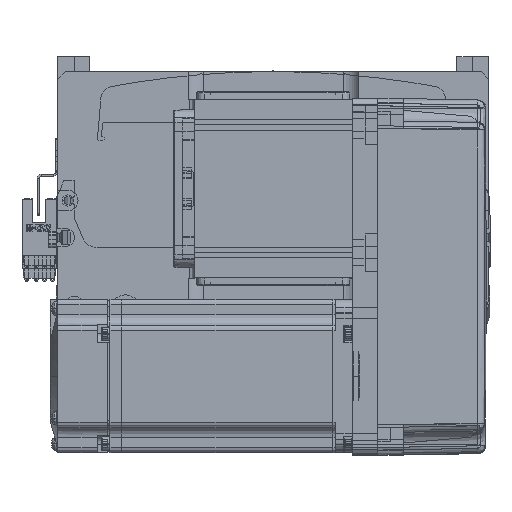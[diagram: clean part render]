
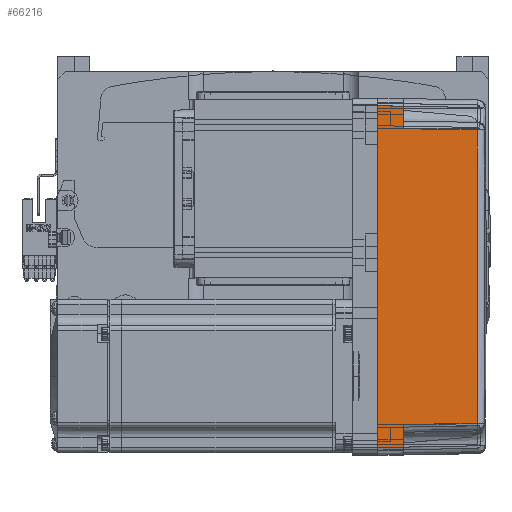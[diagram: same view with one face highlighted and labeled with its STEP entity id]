
A CAD part, top view. The second image highlights one B-rep face of the part: STEP entity #66216.
In plain terms, the highlighted planar face has unit normal (0.018, 0, 1) as drawn and (0, 1, 0.017) by its records, which use the part's own axes.
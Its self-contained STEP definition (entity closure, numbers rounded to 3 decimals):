
#2571 = CARTESIAN_POINT ( 'NONE',  ( -58., 35.825, 10. ) ) ;
#3292 = CARTESIAN_POINT ( 'NONE',  ( -67., 36., 0. ) ) ;
#3382 = DIRECTION ( 'NONE',  ( 1., 0., 0. ) ) ;
#4315 = PLANE ( 'NONE',  #12093 ) ;
#4457 = CARTESIAN_POINT ( 'NONE',  ( 70., 35.825, 10. ) ) ;
#4559 = DIRECTION ( 'NONE',  ( 0., -0.017, 1. ) ) ;
#5425 = ORIENTED_EDGE ( 'NONE', *, *, #33281, .F. ) ;
#7212 = VERTEX_POINT ( 'NONE', #16148 ) ;
#8849 = DIRECTION ( 'NONE',  ( 0.017, -0.017, 1. ) ) ;
#10027 = DIRECTION ( 'NONE',  ( 0.017, -0.017, 1. ) ) ;
#12093 = AXIS2_PLACEMENT_3D ( 'NONE', #64727, #54048, #4559 ) ;
#12339 = ORIENTED_EDGE ( 'NONE', *, *, #48164, .T. ) ;
#15140 = DIRECTION ( 'NONE',  ( 0.017, 0.017, -1. ) ) ;
#15899 = ORIENTED_EDGE ( 'NONE', *, *, #61700, .T. ) ;
#16148 = CARTESIAN_POINT ( 'NONE',  ( 66.826, 35.825, 10. ) ) ;
#16507 = CARTESIAN_POINT ( 'NONE',  ( -58., 35.825, 10. ) ) ;
#17235 = CARTESIAN_POINT ( 'NONE',  ( 67.001, 36.001, -0.052 ) ) ;
#19145 = VERTEX_POINT ( 'NONE', #54672 ) ;
#20701 = CARTESIAN_POINT ( 'NONE',  ( 57.495, 35.32, 38.985 ) ) ;
#23133 = CARTESIAN_POINT ( 'NONE',  ( -66.826, 35.825, 10. ) ) ;
#23268 = VECTOR ( 'NONE', #10027, 1000. ) ;
#23359 = CARTESIAN_POINT ( 'NONE',  ( -67., 36., 0. ) ) ;
#23490 = ORIENTED_EDGE ( 'NONE', *, *, #59298, .T. ) ;
#24403 = FACE_OUTER_BOUND ( 'NONE', #69454, .T. ) ;
#25629 = ORIENTED_EDGE ( 'NONE', *, *, #44479, .T. ) ;
#27716 = LINE ( 'NONE', #4457, #37178 ) ;
#28560 = CARTESIAN_POINT ( 'NONE',  ( -57.495, 35.32, 38.985 ) ) ;
#28997 = CARTESIAN_POINT ( 'NONE',  ( -57.495, 35.32, 38.985 ) ) ;
#29271 = CARTESIAN_POINT ( 'NONE',  ( 57.495, 35.32, 38.985 ) ) ;
#31049 = VECTOR ( 'NONE', #15140, 1000. ) ;
#32657 = LINE ( 'NONE', #3292, #50857 ) ;
#33281 = EDGE_CURVE ( 'NONE', #52095, #53939, #57572, .T. ) ;
#33346 = ORIENTED_EDGE ( 'NONE', *, *, #50012, .T. ) ;
#36073 = VERTEX_POINT ( 'NONE', #2571 ) ;
#36179 = LINE ( 'NONE', #20701, #31049 ) ;
#36884 = VERTEX_POINT ( 'NONE', #28997 ) ;
#37178 = VECTOR ( 'NONE', #42340, 1000. ) ;
#37987 = VECTOR ( 'NONE', #55901, 1000. ) ;
#38479 = VERTEX_POINT ( 'NONE', #23133 ) ;
#39244 = LINE ( 'NONE', #59158, #56550 ) ;
#40443 = B_SPLINE_CURVE_WITH_KNOTS ( 'NONE', 3,
 ( #28560, #44991, #45728, #29271 ),
 .UNSPECIFIED., .F., .F.,
 ( 4, 4 ),
 ( 0., 1. ),
 .UNSPECIFIED. ) ;
#42340 = DIRECTION ( 'NONE',  ( 1., 0., 0. ) ) ;
#44340 = CARTESIAN_POINT ( 'NONE',  ( 67., 36., 0. ) ) ;
#44479 = EDGE_CURVE ( 'NONE', #19145, #56102, #36179, .T. ) ;
#44615 = VECTOR ( 'NONE', #70906, 1000. ) ;
#44991 = CARTESIAN_POINT ( 'NONE',  ( -19.165, 35.316, 39.181 ) ) ;
#45728 = CARTESIAN_POINT ( 'NONE',  ( 19.165, 35.316, 39.181 ) ) ;
#48164 = EDGE_CURVE ( 'NONE', #52095, #38479, #32657, .T. ) ;
#50012 = EDGE_CURVE ( 'NONE', #38479, #36073, #39244, .T. ) ;
#50857 = VECTOR ( 'NONE', #8849, 1000. ) ;
#52095 = VERTEX_POINT ( 'NONE', #23359 ) ;
#52307 = CARTESIAN_POINT ( 'NONE',  ( 58., 35.825, 10. ) ) ;
#53939 = VERTEX_POINT ( 'NONE', #44340 ) ;
#53951 = ORIENTED_EDGE ( 'NONE', *, *, #67341, .T. ) ;
#54048 = DIRECTION ( 'NONE',  ( 0., 1., 0.017 ) ) ;
#54149 = CARTESIAN_POINT ( 'NONE',  ( 0., 36., 0. ) ) ;
#54672 = CARTESIAN_POINT ( 'NONE',  ( 57.495, 35.32, 38.985 ) ) ;
#55901 = DIRECTION ( 'NONE',  ( -0.017, -0.017, 1. ) ) ;
#56102 = VERTEX_POINT ( 'NONE', #52307 ) ;
#56498 = EDGE_CURVE ( 'NONE', #53939, #7212, #68391, .T. ) ;
#56550 = VECTOR ( 'NONE', #3382, 1000. ) ;
#56584 = ORIENTED_EDGE ( 'NONE', *, *, #56498, .F. ) ;
#57572 = LINE ( 'NONE', #54149, #44615 ) ;
#59158 = CARTESIAN_POINT ( 'NONE',  ( 70., 35.825, 10. ) ) ;
#59298 = EDGE_CURVE ( 'NONE', #36884, #19145, #40443, .T. ) ;
#61700 = EDGE_CURVE ( 'NONE', #36073, #36884, #69153, .T. ) ;
#64727 = CARTESIAN_POINT ( 'NONE',  ( 70., 36., 0. ) ) ;
#66216 = ADVANCED_FACE ( 'NONE', ( #24403 ), #4315, .T. ) ;
#67341 = EDGE_CURVE ( 'NONE', #56102, #7212, #27716, .T. ) ;
#68391 = LINE ( 'NONE', #17235, #37987 ) ;
#69153 = LINE ( 'NONE', #16507, #23268 ) ;
#69454 = EDGE_LOOP ( 'NONE', ( #12339, #33346, #15899, #23490, #25629, #53951, #56584, #5425 ) ) ;
#70906 = DIRECTION ( 'NONE',  ( 1., 0., 0. ) ) ;
